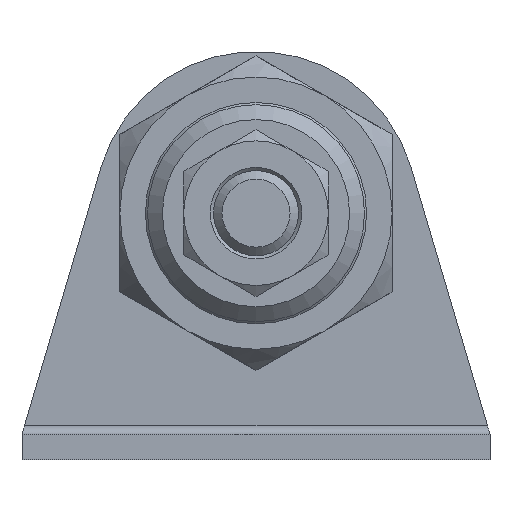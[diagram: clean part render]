
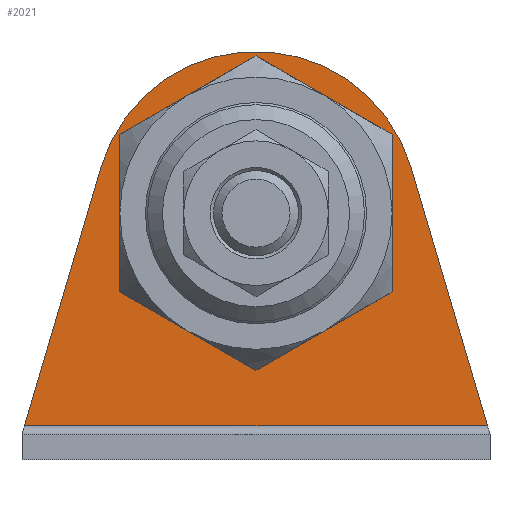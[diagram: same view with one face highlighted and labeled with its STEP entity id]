
A CAD part, front view. The second image highlights one B-rep face of the part: STEP entity #2021.
In plain terms, the highlighted planar face has unit normal (0, -1, 0).
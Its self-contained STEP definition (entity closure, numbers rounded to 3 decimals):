
#38=LINE('',#2888,#92);
#40=LINE('',#2898,#94);
#41=LINE('',#2903,#95);
#92=VECTOR('',#2431,1000.);
#94=VECTOR('',#2443,1000.);
#95=VECTOR('',#2450,1000.);
#235=PLANE('',#2182);
#379=ORIENTED_EDGE('',*,*,#707,.F.);
#380=ORIENTED_EDGE('',*,*,#706,.T.);
#381=ORIENTED_EDGE('',*,*,#708,.T.);
#382=ORIENTED_EDGE('',*,*,#701,.T.);
#383=ORIENTED_EDGE('',*,*,#704,.T.);
#701=EDGE_CURVE('',#874,#873,#38,.T.);
#704=EDGE_CURVE('',#873,#875,#988,.T.);
#706=EDGE_CURVE('',#875,#876,#40,.T.);
#707=EDGE_CURVE('',#877,#877,#989,.T.);
#708=EDGE_CURVE('',#876,#874,#41,.T.);
#873=VERTEX_POINT('',#2887);
#874=VERTEX_POINT('',#2889);
#875=VERTEX_POINT('',#2893);
#876=VERTEX_POINT('',#2897);
#877=VERTEX_POINT('',#2901);
#988=CIRCLE('',#2177,19.);
#989=CIRCLE('',#2181,13.);
#1089=EDGE_LOOP('',(#379));
#1090=EDGE_LOOP('',(#380,#381,#382,#383));
#1245=FACE_BOUND('',#1089,.T.);
#1246=FACE_BOUND('',#1090,.T.);
#2021=ADVANCED_FACE('',(#1245,#1246),#235,.T.);
#2177=AXIS2_PLACEMENT_3D('',#2894,#2437,#2438);
#2181=AXIS2_PLACEMENT_3D('',#2900,#2446,#2447);
#2182=AXIS2_PLACEMENT_3D('',#2902,#2448,#2449);
#2431=DIRECTION('',(-0.284,0.,0.959));
#2437=DIRECTION('',(0.,-1.,0.));
#2438=DIRECTION('',(1.,0.,0.));
#2443=DIRECTION('',(-0.284,0.,-0.959));
#2446=DIRECTION('',(0.,-1.,0.));
#2447=DIRECTION('',(-1.,0.,0.));
#2448=DIRECTION('',(0.,-1.,0.));
#2449=DIRECTION('',(0.,0.,-1.));
#2450=DIRECTION('',(1.,0.,0.));
#2887=CARTESIAN_POINT('',(18.22,-3.,5.387));
#2888=CARTESIAN_POINT('',(27.5,-3.,-26.));
#2889=CARTESIAN_POINT('',(27.204,-3.,-25.));
#2893=CARTESIAN_POINT('',(-18.22,-3.,5.387));
#2894=CARTESIAN_POINT('',(0.,-3.,0.));
#2897=CARTESIAN_POINT('',(-27.204,-3.,-25.));
#2898=CARTESIAN_POINT('',(-27.5,-3.,-26.));
#2900=CARTESIAN_POINT('',(0.,-3.,0.));
#2901=CARTESIAN_POINT('',(-13.,-3.,0.));
#2902=CARTESIAN_POINT('',(0.,-3.,0.));
#2903=CARTESIAN_POINT('',(0.,-3.,-25.));
